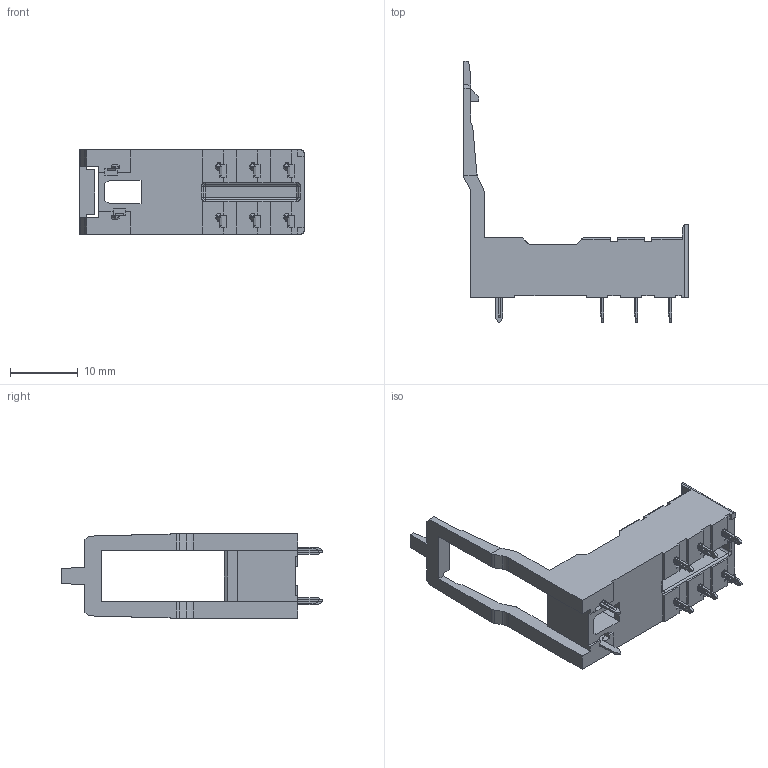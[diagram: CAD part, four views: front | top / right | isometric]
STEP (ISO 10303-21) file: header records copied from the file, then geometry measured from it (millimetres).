
FILE_DESCRIPTION(('STEP AP214'),'2;1');
FILE_NAME('97.12-catalogo.stp','2010-11-29T10:50:36',(''),(''),'2007.1.106','THINKDESIGN','');
FILE_SCHEMA(('AUTOMOTIVE_DESIGN'));
Products named in the file (1): None
Bounding box: 33 x 38.5 x 12.4 mm (x, y, z)
Surface area: 3920.1 mm2 (no closed solid volume)
Topology: 0 solids, 0 shells, 666 faces, 4208 edges, 4204 vertices
Faces by surface type: plane 466, bspline 126, cylinder 74
Entity records: 40759 total; most frequent: CARTESIAN_POINT 11612, DIRECTION 4964, COMPOSITE_CURVE_SEGMENT 4204, TRIMMED_CURVE 3770, VECTOR 3656, LINE 3656, OUTER_BOUNDARY_CURVE 666, CURVE_BOUNDED_SURFACE 666
